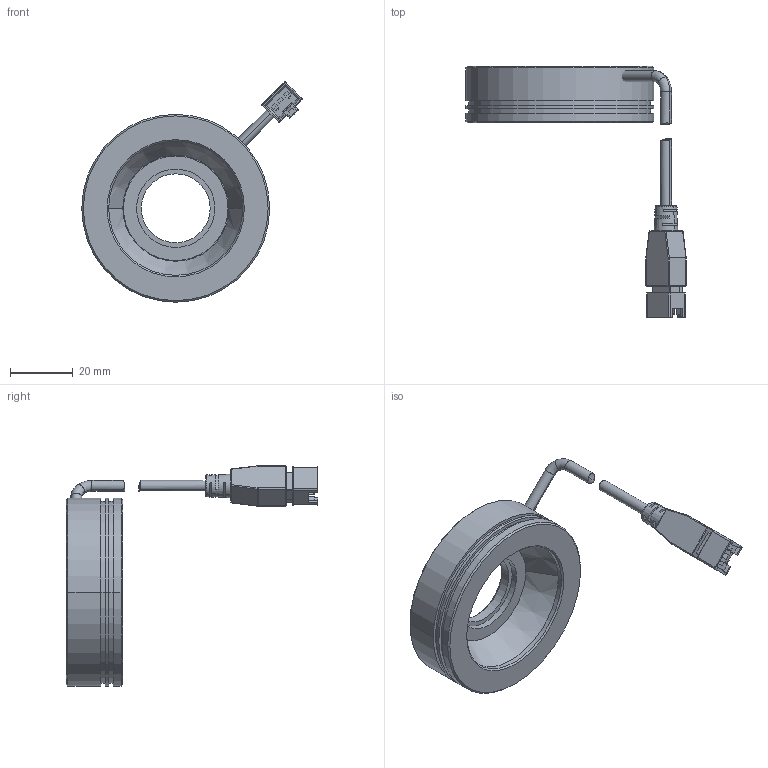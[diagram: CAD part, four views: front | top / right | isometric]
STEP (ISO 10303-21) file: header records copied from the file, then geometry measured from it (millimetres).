
FILE_DESCRIPTION((''),'2;1');
FILE_NAME('MV-LRDS-60-30_ASM','2019-09-19T',('rs-zhongwm'),(''),'PRO/ENGINEER BY PARAMETRIC TECHNOLOGY CORPORATION, 2010100','PRO/ENGINEER BY PARAMETRIC TECHNOLOGY CORPORATION, 2010100','');
FILE_SCHEMA(('CONFIG_CONTROL_DESIGN'));
Length unit declared in the file: millimetre
Products named in the file (5): PRT0006; PRT0007; PRT0008; ASM0005_ASM; MV-LRDS-60-30_ASM
Assembly tree (4 placements, depth 3):
  MV-LRDS-60-30_ASM
    PRT0006
    ASM0005_ASM
      PRT0007
      PRT0008
Bounding box: 70.39 x 80.3 x 70.39 mm (x, y, z)
Volume: 34622.9 mm3; surface area: 13487.2 mm2
Topology: 3 solids, 7 shells, 288 faces, 722 edges, 449 vertices
Faces by surface type: plane 141, cylinder 99, cone 20, torus 12, bspline 8, sphere 8
Entity records: 8883 total; most frequent: CARTESIAN_POINT 1865, DIRECTION 1490, ORIENTED_EDGE 1396, EDGE_CURVE 706, AXIS2_PLACEMENT_3D 537, VERTEX_POINT 449, VECTOR 416, LINE 416
